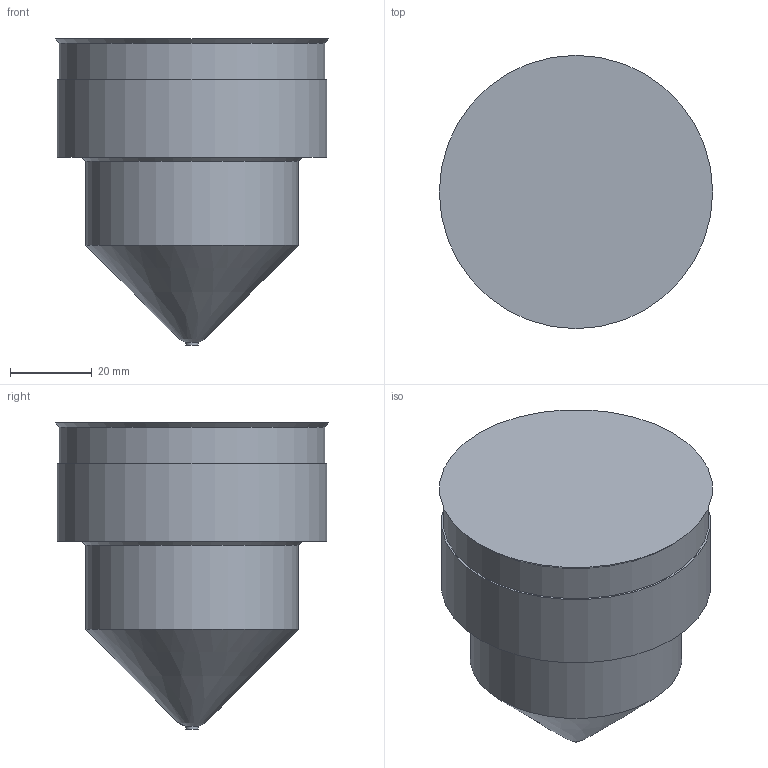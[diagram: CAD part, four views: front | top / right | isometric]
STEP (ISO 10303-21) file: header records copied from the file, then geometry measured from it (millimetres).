
FILE_DESCRIPTION(('STEP AP214'),'1');
FILE_NAME('SEDE IPM5000-A.stp','2018-06-13T08:35:57',(' '),(' '),'Spatial InterOp 3D',' ',' ');
FILE_SCHEMA(('AUTOMOTIVE_DESIGN { 1 0 10303 214 1 1 1 1 }'));
Length unit declared in the file: millimetre
Products named in the file (1): 1
Bounding box: 67 x 67 x 75 mm (x, y, z)
Volume: 162945.3 mm3; surface area: 17453.1 mm2
Topology: 1 solids, 1 shells, 11 faces, 17 edges, 10 vertices
Faces by surface type: cylinder 4, plane 4, cone 2, revolution 1
Full cylindrical faces by diameter (mm): 3 x1, 52 x1, 65 x1, 66 x1
Entity records: 325 total; most frequent: DIRECTION 43, CARTESIAN_POINT 39, AXIS2_PLACEMENT_3D 21, EDGE_LOOP 20, ORIENTED_EDGE 20, FACE_OUTER_BOUND 16, STYLED_ITEM 11, PRESENTATION_STYLE_ASSIGNMENT 11
